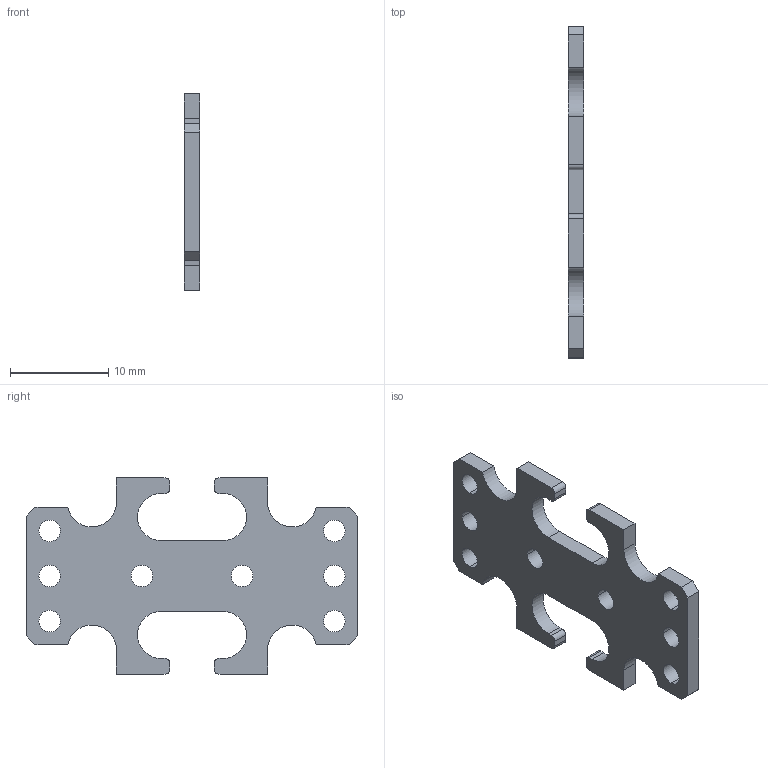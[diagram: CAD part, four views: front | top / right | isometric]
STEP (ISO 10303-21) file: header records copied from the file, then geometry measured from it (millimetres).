
FILE_DESCRIPTION(/* description */ ('(C) Elphel, Inc. 2012. Licensed under CERN OHL v.1.1 or later, see http://ohwr.org/cernohl'),/* implementation_level */ '2;1');
FILE_NAME(/* name */ '0353-24-02',/* time_stamp */ '2012-12-05T22:03:33-07:00',/* author */ (''),/* organization */ ('Elphel, Inc'),/* preprocessor_version */ 'ST-DEVELOPER v12',/* originating_system */ 'VariCAD 2012-1.04; kernel version (20100102)',/* authorisation */ '');
FILE_SCHEMA (('CONFIG_CONTROL_DESIGN'));
Length unit declared in the file: millimetre
Products named in the file (1): Part
Bounding box: 1.6 x 33.8 x 20 mm (x, y, z)
Volume: 628.4 mm3; surface area: 1122.2 mm2
Topology: 1 solids, 1 shells, 62 faces, 180 edges, 120 vertices
Faces by surface type: cylinder 32, plane 30
Entity records: 2146 total; most frequent: DIRECTION 372, CARTESIAN_POINT 364, ORIENTED_EDGE 360, EDGE_CURVE 180, AXIS2_PLACEMENT_3D 128, VERTEX_POINT 120, LINE 116, VECTOR 116
